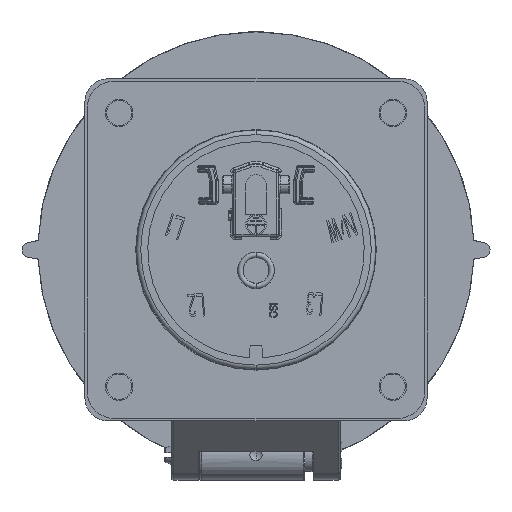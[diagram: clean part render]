
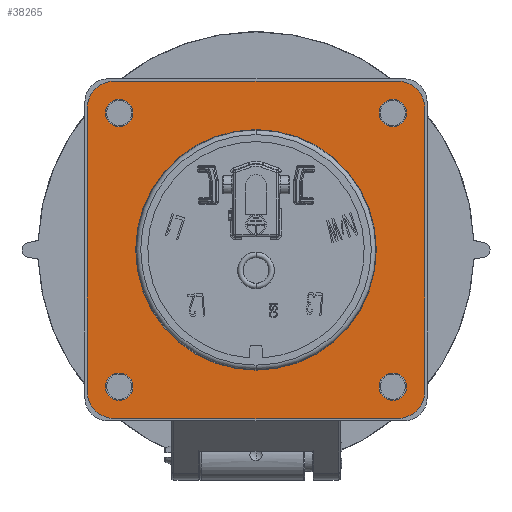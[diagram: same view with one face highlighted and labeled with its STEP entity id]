
A CAD part, front view. The second image highlights one B-rep face of the part: STEP entity #38265.
In plain terms, the highlighted planar face has unit normal (0, -1, 0).
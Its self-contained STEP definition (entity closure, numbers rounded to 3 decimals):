
#9746=CARTESIAN_POINT('',(-31.,-2.,31.));
#9747=DIRECTION('',(0.,1.,0.));
#9748=DIRECTION('',(-1.,0.,0.));
#9749=AXIS2_PLACEMENT_3D('',#9746,#9747,#9748);
#9751=DIRECTION('',(1.,0.,0.));
#9752=VECTOR('',#9751,62.);
#9753=CARTESIAN_POINT('',(-31.,-2.,37.));
#9754=LINE('3001',#9753,#9752);
#9755=CARTESIAN_POINT('',(31.,-2.,31.));
#9756=DIRECTION('',(0.,1.,0.));
#9757=DIRECTION('',(0.,0.,1.));
#9758=AXIS2_PLACEMENT_3D('',#9755,#9756,#9757);
#9760=DIRECTION('',(0.,0.,-1.));
#9761=VECTOR('',#9760,62.);
#9762=CARTESIAN_POINT('',(37.,-2.,31.));
#9763=LINE('3003',#9762,#9761);
#9764=CARTESIAN_POINT('',(31.,-2.,-31.));
#9765=DIRECTION('',(0.,1.,0.));
#9766=DIRECTION('',(1.,0.,0.));
#9767=AXIS2_PLACEMENT_3D('',#9764,#9765,#9766);
#9769=DIRECTION('',(-1.,0.,0.));
#9770=VECTOR('',#9769,62.);
#9771=CARTESIAN_POINT('',(31.,-2.,-37.));
#9772=LINE('3005',#9771,#9770);
#9773=CARTESIAN_POINT('',(-31.,-2.,-31.));
#9774=DIRECTION('',(0.,1.,0.));
#9775=DIRECTION('',(0.,0.,-1.));
#9776=AXIS2_PLACEMENT_3D('',#9773,#9774,#9775);
#9778=DIRECTION('',(0.,0.,1.));
#9779=VECTOR('',#9778,62.);
#9780=CARTESIAN_POINT('',(-37.,-2.,-31.));
#9781=LINE('3007',#9780,#9779);
#9782=CARTESIAN_POINT('',(-30.,-2.,30.));
#9783=DIRECTION('',(0.,-1.,0.));
#9784=DIRECTION('',(0.,0.,-1.));
#9785=AXIS2_PLACEMENT_3D('',#9782,#9783,#9784);
#9787=CARTESIAN_POINT('',(-30.,-2.,30.));
#9788=DIRECTION('',(0.,-1.,0.));
#9789=DIRECTION('',(0.,0.,1.));
#9790=AXIS2_PLACEMENT_3D('',#9787,#9788,#9789);
#9792=CARTESIAN_POINT('',(-30.,-2.,-30.));
#9793=DIRECTION('',(0.,-1.,0.));
#9794=DIRECTION('',(0.,0.,-1.));
#9795=AXIS2_PLACEMENT_3D('',#9792,#9793,#9794);
#9797=CARTESIAN_POINT('',(-30.,-2.,-30.));
#9798=DIRECTION('',(0.,-1.,0.));
#9799=DIRECTION('',(0.,0.,1.));
#9800=AXIS2_PLACEMENT_3D('',#9797,#9798,#9799);
#9802=CARTESIAN_POINT('',(30.,-2.,30.));
#9803=DIRECTION('',(0.,-1.,0.));
#9804=DIRECTION('',(0.,0.,-1.));
#9805=AXIS2_PLACEMENT_3D('',#9802,#9803,#9804);
#9807=CARTESIAN_POINT('',(30.,-2.,30.));
#9808=DIRECTION('',(0.,-1.,0.));
#9809=DIRECTION('',(0.,0.,1.));
#9810=AXIS2_PLACEMENT_3D('',#9807,#9808,#9809);
#9812=CARTESIAN_POINT('',(30.,-2.,-30.));
#9813=DIRECTION('',(0.,-1.,0.));
#9814=DIRECTION('',(0.,0.,-1.));
#9815=AXIS2_PLACEMENT_3D('',#9812,#9813,#9814);
#9817=CARTESIAN_POINT('',(30.,-2.,-30.));
#9818=DIRECTION('',(0.,-1.,0.));
#9819=DIRECTION('',(0.,0.,1.));
#9820=AXIS2_PLACEMENT_3D('',#9817,#9818,#9819);
#9962=CARTESIAN_POINT('',(0.,-2.,0.));
#9963=DIRECTION('',(0.,1.,0.));
#9964=DIRECTION('',(0.,0.,1.));
#9965=AXIS2_PLACEMENT_3D('',#9962,#9963,#9964);
#9967=CARTESIAN_POINT('',(0.,-2.,0.));
#9968=DIRECTION('',(0.,1.,0.));
#9969=DIRECTION('',(0.,0.,-1.));
#9970=AXIS2_PLACEMENT_3D('',#9967,#9968,#9969);
#18396=CARTESIAN_POINT('',(-30.,-2.,27.));
#18397=CARTESIAN_POINT('',(-30.,-2.,33.));
#18398=VERTEX_POINT('',#18396);
#18399=VERTEX_POINT('',#18397);
#18400=CARTESIAN_POINT('',(-30.,-2.,-33.));
#18401=CARTESIAN_POINT('',(-30.,-2.,-27.));
#18402=VERTEX_POINT('',#18400);
#18403=VERTEX_POINT('',#18401);
#18404=CARTESIAN_POINT('',(30.,-2.,27.));
#18405=CARTESIAN_POINT('',(30.,-2.,33.));
#18406=VERTEX_POINT('',#18404);
#18407=VERTEX_POINT('',#18405);
#18408=CARTESIAN_POINT('',(30.,-2.,-33.));
#18409=CARTESIAN_POINT('',(30.,-2.,-27.));
#18410=VERTEX_POINT('',#18408);
#18411=VERTEX_POINT('',#18409);
#18412=CARTESIAN_POINT('',(-37.,-2.,31.));
#18413=CARTESIAN_POINT('',(-31.,-2.,37.));
#18414=VERTEX_POINT('',#18412);
#18415=VERTEX_POINT('',#18413);
#18416=CARTESIAN_POINT('',(31.,-2.,37.));
#18417=VERTEX_POINT('',#18416);
#18418=CARTESIAN_POINT('',(37.,-2.,31.));
#18419=VERTEX_POINT('',#18418);
#18420=CARTESIAN_POINT('',(37.,-2.,-31.));
#18421=VERTEX_POINT('',#18420);
#18422=CARTESIAN_POINT('',(31.,-2.,-37.));
#18423=VERTEX_POINT('',#18422);
#18424=CARTESIAN_POINT('',(-31.,-2.,-37.));
#18425=VERTEX_POINT('',#18424);
#18426=CARTESIAN_POINT('',(-37.,-2.,-31.));
#18427=VERTEX_POINT('',#18426);
#18460=CARTESIAN_POINT('',(0.,-2.,26.374));
#18461=CARTESIAN_POINT('',(0.,-2.,-26.374));
#18462=VERTEX_POINT('',#18460);
#18463=VERTEX_POINT('',#18461);
#38214=CARTESIAN_POINT('',(0.,-2.,0.));
#38215=DIRECTION('',(0.,1.,0.));
#38216=DIRECTION('',(0.,0.,-1.));
#38217=AXIS2_PLACEMENT_3D('',#38214,#38215,#38216);
#38218=PLANE('750',#38217);
#38220=ORIENTED_EDGE('3000',*,*,#38219,.T.);
#38222=ORIENTED_EDGE('3001',*,*,#38221,.T.);
#38224=ORIENTED_EDGE('3002',*,*,#38223,.T.);
#38226=ORIENTED_EDGE('3003',*,*,#38225,.T.);
#38228=ORIENTED_EDGE('3004',*,*,#38227,.T.);
#38230=ORIENTED_EDGE('3005',*,*,#38229,.T.);
#38232=ORIENTED_EDGE('3006',*,*,#38231,.T.);
#38234=ORIENTED_EDGE('3007',*,*,#38233,.T.);
#38235=EDGE_LOOP('750',(#38220,#38222,#38224,#38226,#38228,#38230,#38232,
#38234));
#38236=FACE_OUTER_BOUND('750',#38235,.F.);
#38238=ORIENTED_EDGE('2992',*,*,#38237,.T.);
#38240=ORIENTED_EDGE('2993',*,*,#38239,.T.);
#38241=EDGE_LOOP('750',(#38238,#38240));
#38242=FACE_BOUND('750',#38241,.F.);
#38244=ORIENTED_EDGE('2994',*,*,#38243,.T.);
#38246=ORIENTED_EDGE('2995',*,*,#38245,.T.);
#38247=EDGE_LOOP('750',(#38244,#38246));
#38248=FACE_BOUND('750',#38247,.F.);
#38250=ORIENTED_EDGE('2996',*,*,#38249,.T.);
#38252=ORIENTED_EDGE('2997',*,*,#38251,.T.);
#38253=EDGE_LOOP('750',(#38250,#38252));
#38254=FACE_BOUND('750',#38253,.F.);
#38255=ORIENTED_EDGE('2998',*,*,#38180,.T.);
#38256=ORIENTED_EDGE('2999',*,*,#38201,.T.);
#38257=EDGE_LOOP('750',(#38255,#38256));
#38258=FACE_BOUND('750',#38257,.F.);
#38260=ORIENTED_EDGE('3024',*,*,#38259,.F.);
#38262=ORIENTED_EDGE('3025',*,*,#38261,.F.);
#38263=EDGE_LOOP('750',(#38260,#38262));
#38264=FACE_BOUND('750',#38263,.F.);
#9750=CIRCLE('3000',#9749,6.);
#9759=CIRCLE('3002',#9758,6.);
#9768=CIRCLE('3004',#9767,6.);
#9777=CIRCLE('3006',#9776,6.);
#9786=CIRCLE('2992',#9785,3.);
#9791=CIRCLE('2993',#9790,3.);
#9796=CIRCLE('2994',#9795,3.);
#9801=CIRCLE('2995',#9800,3.);
#9806=CIRCLE('2996',#9805,3.);
#9811=CIRCLE('2997',#9810,3.);
#9816=CIRCLE('2998',#9815,3.);
#9821=CIRCLE('2999',#9820,3.);
#9966=CIRCLE('3024',#9965,26.374);
#9971=CIRCLE('3025',#9970,26.374);
#38180=EDGE_CURVE('2998',#18410,#18411,#9816,.T.);
#38201=EDGE_CURVE('2999',#18411,#18410,#9821,.T.);
#38219=EDGE_CURVE('3000',#18414,#18415,#9750,.T.);
#38221=EDGE_CURVE('3001',#18415,#18417,#9754,.T.);
#38223=EDGE_CURVE('3002',#18417,#18419,#9759,.T.);
#38225=EDGE_CURVE('3003',#18419,#18421,#9763,.T.);
#38227=EDGE_CURVE('3004',#18421,#18423,#9768,.T.);
#38229=EDGE_CURVE('3005',#18423,#18425,#9772,.T.);
#38231=EDGE_CURVE('3006',#18425,#18427,#9777,.T.);
#38233=EDGE_CURVE('3007',#18427,#18414,#9781,.T.);
#38237=EDGE_CURVE('2992',#18398,#18399,#9786,.T.);
#38239=EDGE_CURVE('2993',#18399,#18398,#9791,.T.);
#38243=EDGE_CURVE('2994',#18402,#18403,#9796,.T.);
#38245=EDGE_CURVE('2995',#18403,#18402,#9801,.T.);
#38249=EDGE_CURVE('2996',#18406,#18407,#9806,.T.);
#38251=EDGE_CURVE('2997',#18407,#18406,#9811,.T.);
#38259=EDGE_CURVE('3024',#18462,#18463,#9966,.T.);
#38261=EDGE_CURVE('3025',#18463,#18462,#9971,.T.);
#38265=ADVANCED_FACE('750',(#38236,#38242,#38248,#38254,#38258,#38264),#38218,
.F.);
